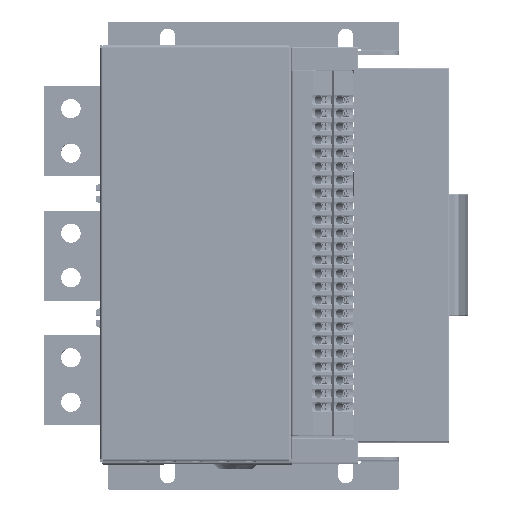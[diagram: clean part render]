
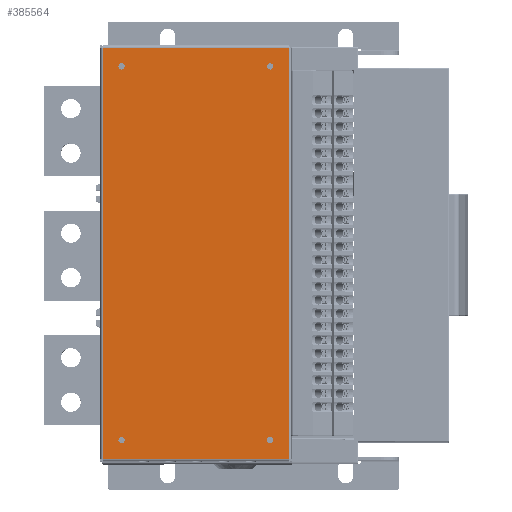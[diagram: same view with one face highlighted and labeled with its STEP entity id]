
A CAD part, top view. The second image highlights one B-rep face of the part: STEP entity #385564.
In plain terms, the highlighted planar face has unit normal (0, 0, 1).
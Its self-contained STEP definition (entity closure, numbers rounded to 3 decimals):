
#4617 = CARTESIAN_POINT ( 'NONE',  ( -41.75, 105., 1. ) ) ;
#9449 = DIRECTION ( 'NONE',  ( 0., 0., -1. ) ) ;
#11892 = ORIENTED_EDGE ( 'NONE', *, *, #44074, .T. ) ;
#14622 = AXIS2_PLACEMENT_3D ( 'NONE', #270844, #414991, #235399 ) ;
#18256 = CARTESIAN_POINT ( 'NONE',  ( 40., -105., 1. ) ) ;
#20904 = CARTESIAN_POINT ( 'NONE',  ( 41.75, -105., 1. ) ) ;
#26539 = EDGE_LOOP ( 'NONE', ( #319444, #305813 ) ) ;
#26703 = EDGE_CURVE ( 'NONE', #249976, #277275, #393652, .T. ) ;
#30558 = DIRECTION ( 'NONE',  ( 1., 0., 0. ) ) ;
#36958 = CARTESIAN_POINT ( 'NONE',  ( 43.5, 105., 1. ) ) ;
#37653 = CARTESIAN_POINT ( 'NONE',  ( 43.5, -105., 1. ) ) ;
#38081 = VECTOR ( 'NONE', #393758, 1000. ) ;
#44041 = CARTESIAN_POINT ( 'NONE',  ( 52.25, 115.5, 1. ) ) ;
#44074 = EDGE_CURVE ( 'NONE', #277275, #249976, #369147, .T. ) ;
#44109 = VERTEX_POINT ( 'NONE', #47330 ) ;
#44265 = DIRECTION ( 'NONE',  ( 0., 1., 0. ) ) ;
#45715 = DIRECTION ( 'NONE',  ( 1., 0., 0. ) ) ;
#46583 = AXIS2_PLACEMENT_3D ( 'NONE', #20904, #453179, #131855 ) ;
#47330 = CARTESIAN_POINT ( 'NONE',  ( -52.25, 115.5, 1. ) ) ;
#48702 = LINE ( 'NONE', #44041, #376038 ) ;
#49257 = DIRECTION ( 'NONE',  ( 1., 0., 0. ) ) ;
#59476 = CARTESIAN_POINT ( 'NONE',  ( -52.25, 117., 1. ) ) ;
#60448 = VERTEX_POINT ( 'NONE', #328735 ) ;
#67203 = VERTEX_POINT ( 'NONE', #375409 ) ;
#72770 = AXIS2_PLACEMENT_3D ( 'NONE', #4617, #80125, #406112 ) ;
#79214 = CARTESIAN_POINT ( 'NONE',  ( -40., -105., 1. ) ) ;
#80125 = DIRECTION ( 'NONE',  ( 0., 0., -1. ) ) ;
#89250 = EDGE_CURVE ( 'NONE', #339078, #205028, #294994, .T. ) ;
#94361 = CARTESIAN_POINT ( 'NONE',  ( 52.25, 115.5, 1. ) ) ;
#97518 = CIRCLE ( 'NONE', #14622, 1.75 ) ;
#104193 = ORIENTED_EDGE ( 'NONE', *, *, #248773, .T. ) ;
#107879 = LINE ( 'NONE', #398441, #38081 ) ;
#113895 = AXIS2_PLACEMENT_3D ( 'NONE', #368560, #9449, #386548 ) ;
#114273 = FACE_BOUND ( 'NONE', #26539, .T. ) ;
#115692 = CIRCLE ( 'NONE', #175736, 1.75 ) ;
#118751 = ORIENTED_EDGE ( 'NONE', *, *, #121090, .T. ) ;
#119468 = ORIENTED_EDGE ( 'NONE', *, *, #123853, .T. ) ;
#121090 = EDGE_CURVE ( 'NONE', #134591, #286397, #107879, .T. ) ;
#123196 = CARTESIAN_POINT ( 'NONE',  ( -43.5, 105., 1. ) ) ;
#123853 = EDGE_CURVE ( 'NONE', #44109, #134591, #165841, .T. ) ;
#131393 = ORIENTED_EDGE ( 'NONE', *, *, #222705, .T. ) ;
#131855 = DIRECTION ( 'NONE',  ( 1., 0., 0. ) ) ;
#134591 = VERTEX_POINT ( 'NONE', #445409 ) ;
#148559 = DIRECTION ( 'NONE',  ( 0., 0., -1. ) ) ;
#152079 = PLANE ( 'NONE',  #459715 ) ;
#162251 = AXIS2_PLACEMENT_3D ( 'NONE', #292637, #148559, #398991 ) ;
#162406 = ORIENTED_EDGE ( 'NONE', *, *, #300012, .T. ) ;
#164853 = CARTESIAN_POINT ( 'NONE',  ( 40., 105., 1. ) ) ;
#165841 = LINE ( 'NONE', #59476, #189414 ) ;
#175736 = AXIS2_PLACEMENT_3D ( 'NONE', #228778, #200289, #49257 ) ;
#179597 = EDGE_LOOP ( 'NONE', ( #460037, #131393 ) ) ;
#184431 = ORIENTED_EDGE ( 'NONE', *, *, #214131, .T. ) ;
#187494 = FACE_OUTER_BOUND ( 'NONE', #308645, .T. ) ;
#189414 = VECTOR ( 'NONE', #385469, 1000. ) ;
#191416 = DIRECTION ( 'NONE',  ( 1., 0., 0. ) ) ;
#200289 = DIRECTION ( 'NONE',  ( 0., 0., -1. ) ) ;
#205028 = VERTEX_POINT ( 'NONE', #36958 ) ;
#210411 = EDGE_CURVE ( 'NONE', #288600, #67203, #115692, .T. ) ;
#213479 = DIRECTION ( 'NONE',  ( 0., 0., -1. ) ) ;
#214131 = EDGE_CURVE ( 'NONE', #440234, #60448, #365917, .T. ) ;
#222705 = EDGE_CURVE ( 'NONE', #67203, #288600, #276408, .T. ) ;
#222966 = FACE_BOUND ( 'NONE', #179597, .T. ) ;
#228778 = CARTESIAN_POINT ( 'NONE',  ( -41.75, 105., 1. ) ) ;
#235399 = DIRECTION ( 'NONE',  ( 1., 0., 0. ) ) ;
#248773 = EDGE_CURVE ( 'NONE', #286397, #404974, #441131, .T. ) ;
#249976 = VERTEX_POINT ( 'NONE', #18256 ) ;
#254882 = EDGE_CURVE ( 'NONE', #205028, #339078, #413254, .T. ) ;
#256090 = EDGE_LOOP ( 'NONE', ( #415048, #11892 ) ) ;
#258355 = FACE_BOUND ( 'NONE', #256090, .T. ) ;
#260697 = DIRECTION ( 'NONE',  ( 0., 0., 1. ) ) ;
#270844 = CARTESIAN_POINT ( 'NONE',  ( -41.75, -105., 1. ) ) ;
#276408 = CIRCLE ( 'NONE', #72770, 1.75 ) ;
#277275 = VERTEX_POINT ( 'NONE', #37653 ) ;
#286397 = VERTEX_POINT ( 'NONE', #353745 ) ;
#288600 = VERTEX_POINT ( 'NONE', #123196 ) ;
#290372 = EDGE_LOOP ( 'NONE', ( #412801, #184431 ) ) ;
#292637 = CARTESIAN_POINT ( 'NONE',  ( -41.75, -105., 1. ) ) ;
#294994 = CIRCLE ( 'NONE', #113895, 1.75 ) ;
#296783 = DIRECTION ( 'NONE',  ( -1., 0., 0. ) ) ;
#298598 = VECTOR ( 'NONE', #44265, 1000. ) ;
#300012 = EDGE_CURVE ( 'NONE', #404974, #44109, #48702, .T. ) ;
#305813 = ORIENTED_EDGE ( 'NONE', *, *, #254882, .T. ) ;
#308645 = EDGE_LOOP ( 'NONE', ( #119468, #118751, #104193, #162406 ) ) ;
#314159 = CARTESIAN_POINT ( 'NONE',  ( 41.75, 105., 1. ) ) ;
#319444 = ORIENTED_EDGE ( 'NONE', *, *, #89250, .T. ) ;
#319876 = CARTESIAN_POINT ( 'NONE',  ( 41.75, -105., 1. ) ) ;
#323487 = DIRECTION ( 'NONE',  ( 0., 0., -1. ) ) ;
#328735 = CARTESIAN_POINT ( 'NONE',  ( -43.5, -105., 1. ) ) ;
#331654 = FACE_BOUND ( 'NONE', #290372, .T. ) ;
#339078 = VERTEX_POINT ( 'NONE', #164853 ) ;
#353745 = CARTESIAN_POINT ( 'NONE',  ( 52.25, -115.5, 1. ) ) ;
#365917 = CIRCLE ( 'NONE', #162251, 1.75 ) ;
#368560 = CARTESIAN_POINT ( 'NONE',  ( 41.75, 105., 1. ) ) ;
#369147 = CIRCLE ( 'NONE', #414364, 1.75 ) ;
#375409 = CARTESIAN_POINT ( 'NONE',  ( -40., 105., 1. ) ) ;
#376038 = VECTOR ( 'NONE', #296783, 1000. ) ;
#382865 = AXIS2_PLACEMENT_3D ( 'NONE', #314159, #323487, #30558 ) ;
#385469 = DIRECTION ( 'NONE',  ( 0., -1., 0. ) ) ;
#385564 = ADVANCED_FACE ( 'NONE', ( #187494, #114273, #258355, #222966, #331654 ), #152079, .T. ) ;
#386548 = DIRECTION ( 'NONE',  ( 1., 0., 0. ) ) ;
#393652 = CIRCLE ( 'NONE', #46583, 1.75 ) ;
#393758 = DIRECTION ( 'NONE',  ( 1., 0., 0. ) ) ;
#398441 = CARTESIAN_POINT ( 'NONE',  ( -52.25, -115.5, 1. ) ) ;
#398991 = DIRECTION ( 'NONE',  ( 1., 0., 0. ) ) ;
#404974 = VERTEX_POINT ( 'NONE', #94361 ) ;
#406112 = DIRECTION ( 'NONE',  ( 1., 0., 0. ) ) ;
#412801 = ORIENTED_EDGE ( 'NONE', *, *, #418491, .T. ) ;
#413254 = CIRCLE ( 'NONE', #382865, 1.75 ) ;
#414364 = AXIS2_PLACEMENT_3D ( 'NONE', #319876, #213479, #191416 ) ;
#414991 = DIRECTION ( 'NONE',  ( 0., 0., -1. ) ) ;
#415048 = ORIENTED_EDGE ( 'NONE', *, *, #26703, .T. ) ;
#418491 = EDGE_CURVE ( 'NONE', #60448, #440234, #97518, .T. ) ;
#440234 = VERTEX_POINT ( 'NONE', #79214 ) ;
#440270 = CARTESIAN_POINT ( 'NONE',  ( 0., 0., 1. ) ) ;
#441131 = LINE ( 'NONE', #445801, #298598 ) ;
#445409 = CARTESIAN_POINT ( 'NONE',  ( -52.25, -115.5, 1. ) ) ;
#445801 = CARTESIAN_POINT ( 'NONE',  ( 52.25, -117., 1. ) ) ;
#453179 = DIRECTION ( 'NONE',  ( 0., 0., -1. ) ) ;
#459715 = AXIS2_PLACEMENT_3D ( 'NONE', #440270, #260697, #45715 ) ;
#460037 = ORIENTED_EDGE ( 'NONE', *, *, #210411, .T. ) ;
